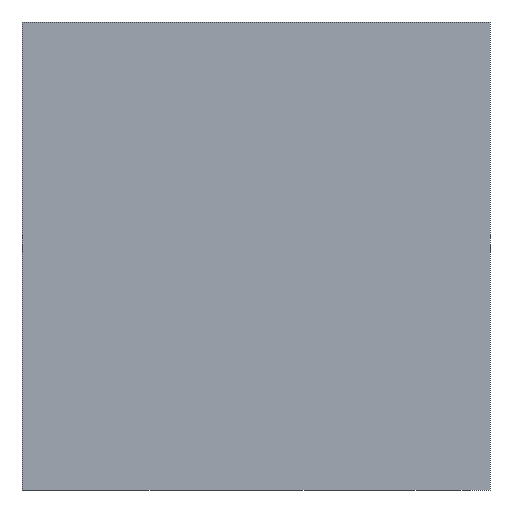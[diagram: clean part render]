
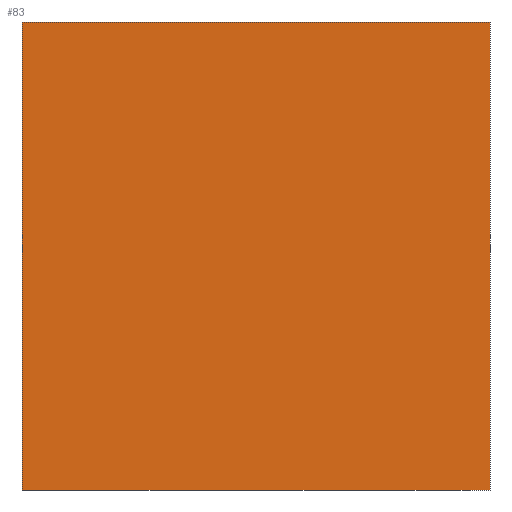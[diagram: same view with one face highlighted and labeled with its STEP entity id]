
A CAD part, left-side view. The second image highlights one B-rep face of the part: STEP entity #83.
In plain terms, the highlighted planar face has unit normal (-1, 0, 0).
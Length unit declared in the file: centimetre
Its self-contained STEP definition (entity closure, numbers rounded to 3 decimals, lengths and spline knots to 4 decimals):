
#2 = CARTESIAN_POINT ( 'NONE',  ( 0., 1000., 0. ) ) ;
#8 = VERTEX_POINT ( 'NONE', #527 ) ;
#39 = LINE ( 'NONE', #2, #105 ) ;
#54 = ORIENTED_EDGE ( 'NONE', *, *, #111, .T. ) ;
#67 = CARTESIAN_POINT ( 'NONE',  ( 0., 0., 1000. ) ) ;
#78 = EDGE_CURVE ( 'NONE', #235, #8, #242, .T. ) ;
#80 = CARTESIAN_POINT ( 'NONE',  ( 0., 1000., 1000. ) ) ;
#83 = ADVANCED_FACE ( 'NONE', ( #239 ), #523, .F. ) ;
#105 = VECTOR ( 'NONE', #412, 100. ) ;
#111 = EDGE_CURVE ( 'NONE', #318, #8, #39, .T. ) ;
#139 = AXIS2_PLACEMENT_3D ( 'NONE', #280, #153, #319 ) ;
#147 = EDGE_LOOP ( 'NONE', ( #54, #429, #362, #238 ) ) ;
#153 = DIRECTION ( 'NONE',  ( 1., 0., 0. ) ) ;
#176 = CARTESIAN_POINT ( 'NONE',  ( 0., 1000., 0. ) ) ;
#178 = EDGE_CURVE ( 'NONE', #356, #318, #454, .T. ) ;
#225 = CARTESIAN_POINT ( 'NONE',  ( 0., 1000., 1000. ) ) ;
#235 = VERTEX_POINT ( 'NONE', #492 ) ;
#238 = ORIENTED_EDGE ( 'NONE', *, *, #178, .T. ) ;
#239 = FACE_OUTER_BOUND ( 'NONE', #147, .T. ) ;
#242 = LINE ( 'NONE', #67, #423 ) ;
#265 = DIRECTION ( 'NONE',  ( 0., -1., 0. ) ) ;
#270 = CARTESIAN_POINT ( 'NONE',  ( 0., 1000., 1000. ) ) ;
#280 = CARTESIAN_POINT ( 'NONE',  ( 0., 1000., 1000. ) ) ;
#298 = DIRECTION ( 'NONE',  ( 0., 0., -1. ) ) ;
#318 = VERTEX_POINT ( 'NONE', #176 ) ;
#319 = DIRECTION ( 'NONE',  ( 0., 0., -1. ) ) ;
#344 = LINE ( 'NONE', #225, #413 ) ;
#356 = VERTEX_POINT ( 'NONE', #270 ) ;
#362 = ORIENTED_EDGE ( 'NONE', *, *, #468, .F. ) ;
#412 = DIRECTION ( 'NONE',  ( 0., -1., 0. ) ) ;
#413 = VECTOR ( 'NONE', #265, 100. ) ;
#416 = VECTOR ( 'NONE', #298, 100. ) ;
#423 = VECTOR ( 'NONE', #479, 100. ) ;
#429 = ORIENTED_EDGE ( 'NONE', *, *, #78, .F. ) ;
#454 = LINE ( 'NONE', #80, #416 ) ;
#468 = EDGE_CURVE ( 'NONE', #356, #235, #344, .T. ) ;
#479 = DIRECTION ( 'NONE',  ( 0., 0., -1. ) ) ;
#492 = CARTESIAN_POINT ( 'NONE',  ( 0., 0., 1000. ) ) ;
#523 = PLANE ( 'NONE',  #139 ) ;
#527 = CARTESIAN_POINT ( 'NONE',  ( 0., 0., 0. ) ) ;
